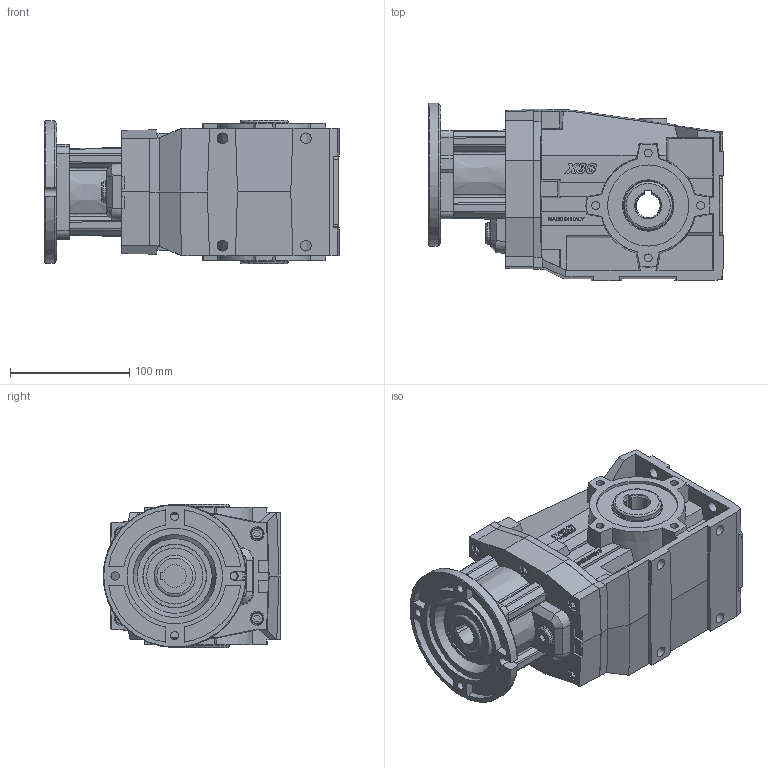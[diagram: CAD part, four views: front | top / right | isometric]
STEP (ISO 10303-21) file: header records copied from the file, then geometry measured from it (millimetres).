
FILE_DESCRIPTION( ( 'Unknown' ), '1' );
FILE_NAME( 'E:/services/configuratordownloads/customers/HYDROMEC/X/download/AF91361B05F4D8922BB7251C58CA2D9/STEP/AF91361B05F4D8922BB7251C58CA2D9.3d.stp', 'Unknown', ( 'Unknown' ), ( 'Unknown' ), 'PSStep 10.1', 'Unknown', ' ' );
FILE_SCHEMA( ( 'AUTOMOTIVE_DESIGN { 1 0 10303 214 1 1 1 1 }' ) );
Length unit declared in the file: millimetre
Products named in the file (1): X3S8800
Bounding box: 247 x 148.89 x 120 mm (x, y, z)
Volume: 2424664 mm3; surface area: 209544.8 mm2
Topology: 1 solids, 15 shells, 942 faces, 2396 edges, 1586 vertices
Faces by surface type: plane 690, cone 101, cylinder 92, extrusion 32, torus 17, bspline 10
Full cylindrical faces by diameter (mm): 5 x10, 6.647 x8, 7 x3, 7.15 x4, 9 x4, 10 x14, 11.5 x3, 13.5 x1, 18 x1, 19 x1, 20 x1, 23 x1, 35 x1, 40.05 x2, 47 x2, 68 x2, 80 x1
Entity records: 36593 total; most frequent: CARTESIAN_POINT 7067, ORIENTED_EDGE 4456, DIRECTION 4238, EDGE_CURVE 2228, VECTOR 1650, LINE 1618, VERTEX_POINT 1544, AXIS2_PLACEMENT_3D 1294
